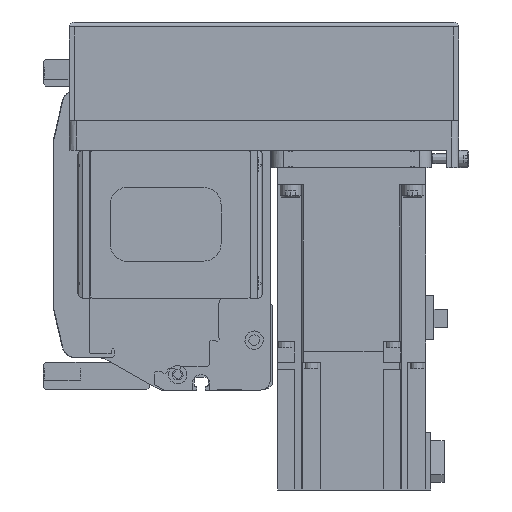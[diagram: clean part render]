
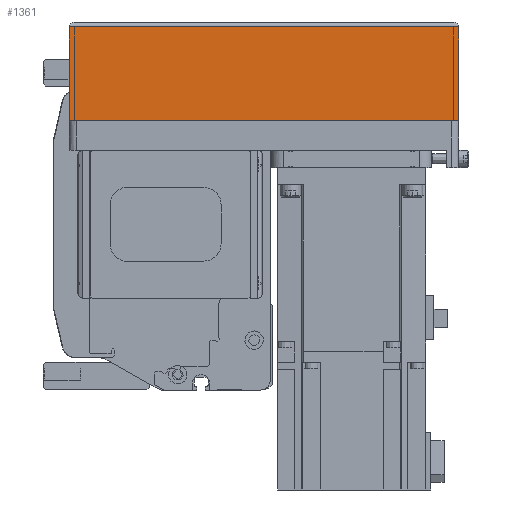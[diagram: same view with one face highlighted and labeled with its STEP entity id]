
A CAD part, left-side view. The second image highlights one B-rep face of the part: STEP entity #1361.
In plain terms, the highlighted planar face has unit normal (-1, 0, 0) as drawn and (0, -1, 0) by its records, which use the part's own axes.
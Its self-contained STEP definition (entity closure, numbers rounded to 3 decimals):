
#1361 = ADVANCED_FACE( '', ( #3780 ), #3781, .T. );
#3780 = FACE_OUTER_BOUND( '', #7718, .T. );
#3781 = PLANE( '', #7719 );
#7718 = EDGE_LOOP( '', ( #11755, #11756, #11757, #11758 ) );
#7719 = AXIS2_PLACEMENT_3D( '', #11759, #11760, #11761 );
#11755 = ORIENTED_EDGE( '', *, *, #21915, .F. );
#11756 = ORIENTED_EDGE( '', *, *, #21916, .F. );
#11757 = ORIENTED_EDGE( '', *, *, #21917, .T. );
#11758 = ORIENTED_EDGE( '', *, *, #21918, .T. );
#11759 = CARTESIAN_POINT( '', ( -158., -39., -12.1 ) );
#11760 = DIRECTION( '', ( 0., -1., 0. ) );
#11761 = DIRECTION( '', ( 0., 0., -1. ) );
#21915 = EDGE_CURVE( '', #25953, #25954, #25955, .T. );
#21916 = EDGE_CURVE( '', #25956, #25953, #25957, .T. );
#21917 = EDGE_CURVE( '', #25956, #25958, #25959, .T. );
#21918 = EDGE_CURVE( '', #25958, #25954, #25960, .T. );
#25953 = VERTEX_POINT( '', #31951 );
#25954 = VERTEX_POINT( '', #31952 );
#25955 = LINE( '', #31953, #31954 );
#25956 = VERTEX_POINT( '', #31955 );
#25957 = LINE( '', #31956, #31957 );
#25958 = VERTEX_POINT( '', #31958 );
#25959 = LINE( '', #31959, #31960 );
#25960 = LINE( '', #31961, #31962 );
#31951 = CARTESIAN_POINT( '', ( 0., -39., -12.1 ) );
#31952 = CARTESIAN_POINT( '', ( 0., -39., -50. ) );
#31953 = CARTESIAN_POINT( '', ( 0., -39., -12.1 ) );
#31954 = VECTOR( '', #41228, 1000. );
#31955 = CARTESIAN_POINT( '', ( -158., -39., -12.1 ) );
#31956 = CARTESIAN_POINT( '', ( -158., -39., -12.1 ) );
#31957 = VECTOR( '', #41229, 1000. );
#31958 = CARTESIAN_POINT( '', ( -158., -39., -50. ) );
#31959 = CARTESIAN_POINT( '', ( -158., -39., -12.1 ) );
#31960 = VECTOR( '', #41230, 1000. );
#31961 = CARTESIAN_POINT( '', ( -158., -39., -50. ) );
#31962 = VECTOR( '', #41231, 1000. );
#41228 = DIRECTION( '', ( 0., 0., -1. ) );
#41229 = DIRECTION( '', ( 1., 0., 0. ) );
#41230 = DIRECTION( '', ( 0., 0., -1. ) );
#41231 = DIRECTION( '', ( 1., 0., 0. ) );
